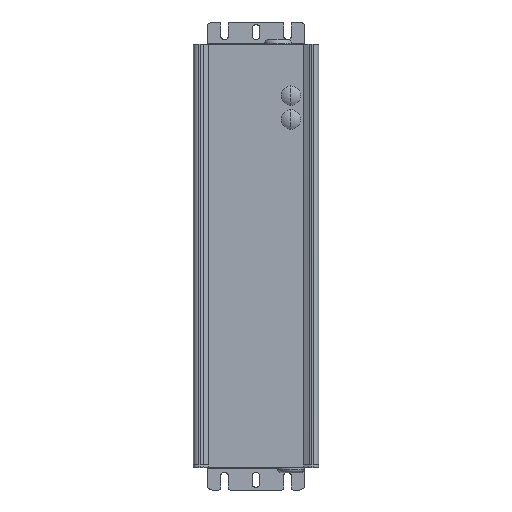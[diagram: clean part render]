
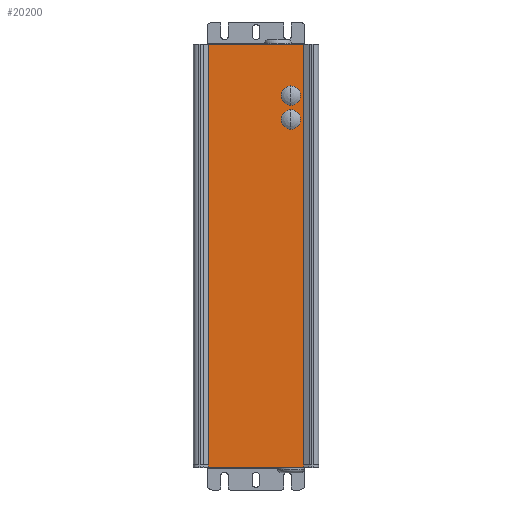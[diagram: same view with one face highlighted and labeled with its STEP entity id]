
A CAD part, left-side view. The second image highlights one B-rep face of the part: STEP entity #20200.
In plain terms, the highlighted planar face has unit normal (-1, 0, 0).
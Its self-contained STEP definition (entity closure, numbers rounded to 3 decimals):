
#7910=CARTESIAN_POINT('',(1771.873,-2450.564,
213.6));
#7920=VERTEX_POINT('',#7910);
#7950=CARTESIAN_POINT('',(1771.873,-2450.564,
213.6));
#7960=DIRECTION('',(0.,1.,0.));
#7970=VECTOR('',#7960,1.);
#7980=LINE('',#7950,#7970);
#7990=CARTESIAN_POINT('',(1771.873,-2398.564,
213.6));
#8000=VERTEX_POINT('',#7990);
#8010=EDGE_CURVE('',#7920,#8000,#7980,.T.);
#11670=CARTESIAN_POINT('',(1771.873,-2398.514,-16.6));
#11680=VERTEX_POINT('',#11670);
#11710=CARTESIAN_POINT('',(1771.873,-2398.514,-16.6));
#11720=DIRECTION('',(0.,-1.,0.));
#11730=VECTOR('',#11720,1.);
#11740=LINE('',#11710,#11730);
#11750=CARTESIAN_POINT('',(1771.873,-2450.514,-16.6));
#11760=VERTEX_POINT('',#11750);
#11770=EDGE_CURVE('',#11680,#11760,#11740,.T.);
#19280=CARTESIAN_POINT('',(1771.873,-2450.564,-15.));
#19290=VERTEX_POINT('',#19280);
#19340=CARTESIAN_POINT('',(1771.873,-2450.514,-15.));
#19350=DIRECTION('',(0.,0.,-1.));
#19360=VECTOR('',#19350,1.);
#19370=LINE('',#19340,#19360);
#19380=CARTESIAN_POINT('',(1771.873,-2450.514,-15.));
#19390=VERTEX_POINT('',#19380);
#19400=EDGE_CURVE('',#19390,#11760,#19370,.T.);
#19420=CARTESIAN_POINT('',(1771.873,-2450.514,-15.));
#19430=DIRECTION('',(0.,-1.,0.));
#19440=VECTOR('',#19430,1.);
#19450=LINE('',#19420,#19440);
#19460=EDGE_CURVE('',#19390,#19290,#19450,.T.);
#19510=CARTESIAN_POINT('',(1771.873,-2450.564,0.));
#19520=DIRECTION('',(-1.,0.,0.));
#19530=DIRECTION('',(0.,1.,0.));
#19540=AXIS2_PLACEMENT_3D('',#19510,#19520,#19530);
#19550=PLANE('',#19540);
#19560=ORIENTED_EDGE('',*,*,#19400,.F.);
#19570=ORIENTED_EDGE('',*,*,#11770,.T.);
#19580=CARTESIAN_POINT('',(1771.873,-2398.514,-15.));
#19590=DIRECTION('',(0.,0.,-1.));
#19600=VECTOR('',#19590,1.);
#19610=LINE('',#19580,#19600);
#19620=CARTESIAN_POINT('',(1771.873,-2398.52,-15.));
#19630=VERTEX_POINT('',#19620);
#19640=EDGE_CURVE('',#19630,#11680,#19610,.T.);
#19650=ORIENTED_EDGE('',*,*,#19640,.T.);
#19660=CARTESIAN_POINT('',(1771.873,-2398.564,-15.));
#19670=DIRECTION('',(0.,1.,0.));
#19680=VECTOR('',#19670,1.);
#19690=LINE('',#19660,#19680);
#19700=CARTESIAN_POINT('',(1771.873,-2398.564,-15.));
#19710=VERTEX_POINT('',#19700);
#19720=EDGE_CURVE('',#19710,#19630,#19690,.T.);
#19730=ORIENTED_EDGE('',*,*,#19720,.T.);
#19740=CARTESIAN_POINT('',(1771.873,-2398.564,
213.6));
#19750=DIRECTION('',(0.,0.,-1.));
#19760=VECTOR('',#19750,1.);
#19770=LINE('',#19740,#19760);
#19780=EDGE_CURVE('',#8000,#19710,#19770,.T.);
#19790=ORIENTED_EDGE('',*,*,#19780,.T.);
#19800=ORIENTED_EDGE('',*,*,#8010,.T.);
#19810=CARTESIAN_POINT('',(1771.873,-2450.564,
213.6));
#19820=DIRECTION('',(0.,0.,-1.));
#19830=VECTOR('',#19820,1.);
#19840=LINE('',#19810,#19830);
#19850=EDGE_CURVE('',#7920,#19290,#19840,.T.);
#19860=ORIENTED_EDGE('',*,*,#19850,.F.);
#19870=ORIENTED_EDGE('',*,*,#19460,.T.);
#19880=EDGE_LOOP('',(#19870,#19860,#19800,#19790,#19730,#19650,#19570,
#19560));
#19890=FACE_OUTER_BOUND('',#19880,.T.);
#19900=CARTESIAN_POINT('',(1771.873,-2443.484,
185.64));
#19910=DIRECTION('',(-1.,0.,0.));
#19920=DIRECTION('',(0.,-1.,0.));
#19930=AXIS2_PLACEMENT_3D('',#19900,#19910,#19920);
#19940=CIRCLE('',#19930,5.25);
#19950=CARTESIAN_POINT('',(1771.873,-2448.734,
185.64));
#19960=VERTEX_POINT('',#19950);
#19970=CARTESIAN_POINT('',(1771.873,-2438.234,
185.64));
#19980=VERTEX_POINT('',#19970);
#19990=EDGE_CURVE('',#19960,#19980,#19940,.T.);
#20000=ORIENTED_EDGE('',*,*,#19990,.F.);
#20010=EDGE_CURVE('',#19980,#19960,#19940,.T.);
#20020=ORIENTED_EDGE('',*,*,#20010,.F.);
#20030=EDGE_LOOP('',(#20020,#20000));
#20040=FACE_BOUND('',#20030,.T.);
#20050=CARTESIAN_POINT('',(1771.873,-2443.484,
172.64));
#20060=DIRECTION('',(-1.,0.,0.));
#20070=DIRECTION('',(0.,-1.,0.));
#20080=AXIS2_PLACEMENT_3D('',#20050,#20060,#20070);
#20090=CIRCLE('',#20080,5.25);
#20100=CARTESIAN_POINT('',(1771.873,-2448.734,
172.64));
#20110=VERTEX_POINT('',#20100);
#20120=CARTESIAN_POINT('',(1771.873,-2438.234,
172.64));
#20130=VERTEX_POINT('',#20120);
#20140=EDGE_CURVE('',#20110,#20130,#20090,.T.);
#20150=ORIENTED_EDGE('',*,*,#20140,.F.);
#20160=EDGE_CURVE('',#20130,#20110,#20090,.T.);
#20170=ORIENTED_EDGE('',*,*,#20160,.F.);
#20180=EDGE_LOOP('',(#20170,#20150));
#20190=FACE_BOUND('',#20180,.T.);
#20200=ADVANCED_FACE('',(#19890,#20040,#20190),#19550,.T.);
